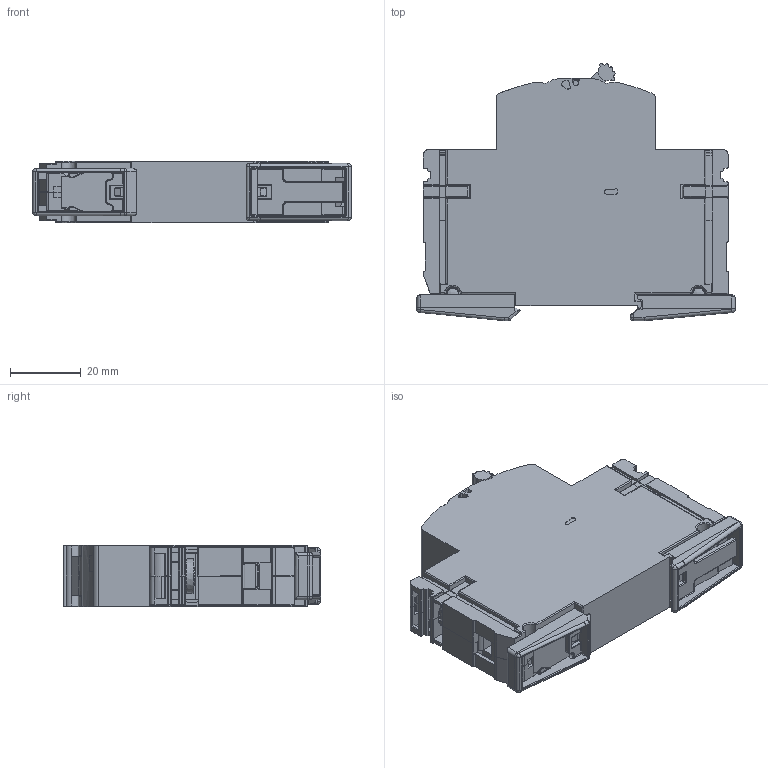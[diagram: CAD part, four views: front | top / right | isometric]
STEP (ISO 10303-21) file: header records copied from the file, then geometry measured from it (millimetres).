
FILE_DESCRIPTION (( 'STEP AP214' ), '1' );
FILE_NAME ('LPE-1_zj4.step', '2013-06-20T13:15:30', ( 'Siemens' ), ( 'Siemens' ), 'SwSTEP 2.0', 'SolidWorks 2011', '' );
FILE_SCHEMA (( 'AUTOMOTIVE_DESIGN' ));
Length unit declared in the file: millimetre
Products named in the file (1): LPE-1_zj4
Bounding box: 90.21 x 72.92 x 17.55 mm (x, y, z)
Volume: 76555.4 mm3; surface area: 22236 mm2
Topology: 1 solids, 4 shells, 1808 faces, 5071 edges, 3197 vertices
Faces by surface type: plane 945, cylinder 578, bspline 247, cone 38
Entity records: 83787 total; most frequent: CARTESIAN_POINT 19569, ORIENTED_EDGE 10042, DIRECTION 8413, EDGE_CURVE 5021, VERTEX_POINT 3197, VECTOR 3171, LINE 3171, AXIS2_PLACEMENT_3D 2621
